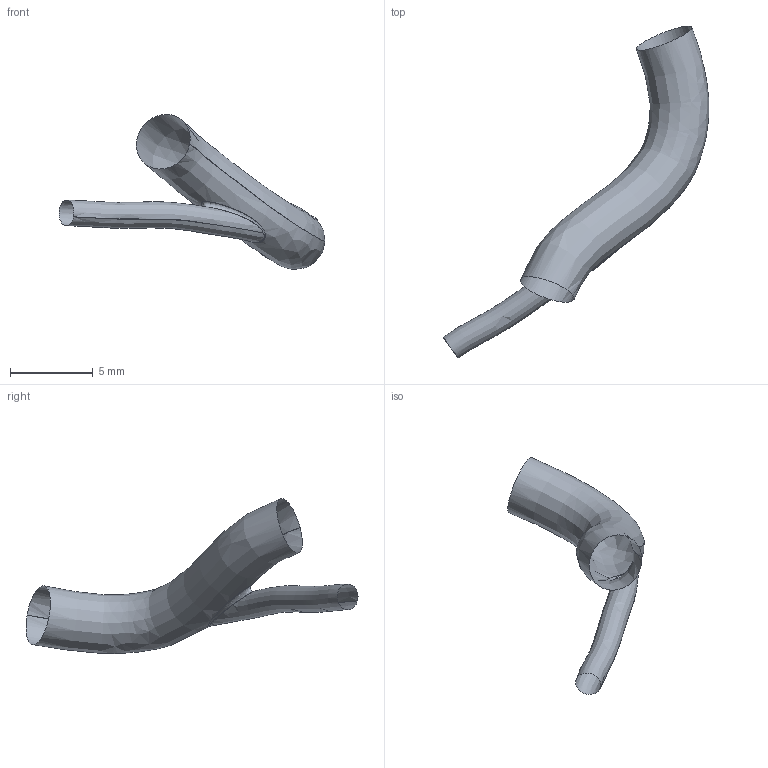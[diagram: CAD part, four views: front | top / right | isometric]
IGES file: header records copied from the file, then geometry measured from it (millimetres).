
Global section: file name: C:\Documents and Settings\Administrator\Desktop\FDA Bifurcation win\RawData_for_IGES\HRCA_Data\19990218.103146\IGES\19990218.103146.RM.BIFUR.ES.igs; native system: Rhinoceros ( May 19 2006 ); preprocessor: Trout Lake IGES 012 May 19 2006; date: 100728.194735; units: centimetre
Bounding box: 16.1 x 20.11 x 9.39 mm (x, y, z)
Surface area: 279.7 mm2 (no closed solid volume)
Topology: 0 solids, 0 shells, 3 faces, 43 edges, 38 vertices
Faces by surface type: bspline 3
